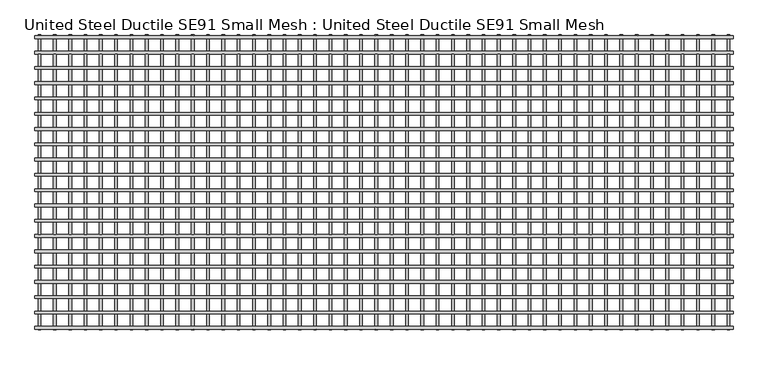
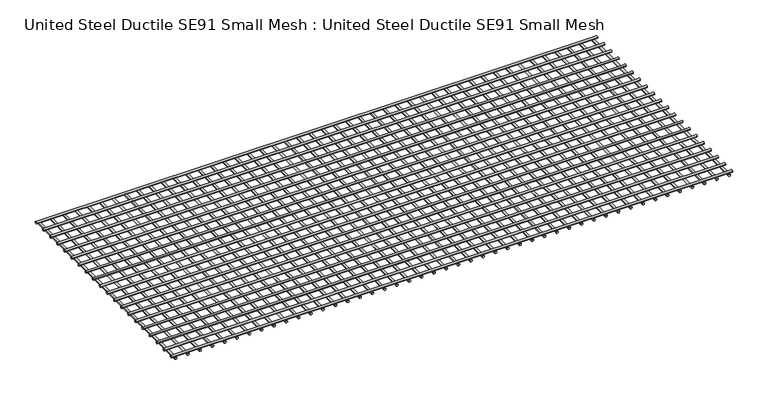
"""IFC4 building model written with IfcOpenShell, lengths in millimetres: proxy geometry, United Steel Ductile SE91 Small Mesh : United Steel Ductile SE91 Small Mesh."""

from ifc_helpers import new_model, si_unit, point, frame, frame_2d, origin, place, context, project, spatial, circle_curve, trimmed, segment, composite_curve, outline, extrude, source, transform, mapped, element, save


def united_steel_ductile_se91_small_mesh_united_steel_ductile_885aa156(model_context):
    return source(origin(), model_context, "Body", "SweptSolid", [
        extrude(outline(composite_curve([segment(trimmed(circle_curve(frame_2d((-115.8538329, 26.8809412)), 9.0), [point((-124.8538329, 26.8809412))], [point((-106.8538329, 26.8809412))], False, "CARTESIAN"), True, "CONTINUOUS"), segment(trimmed(circle_curve(frame_2d((-115.8538329, 26.8809412)), 9.0), [point((-106.8538329, 26.8809412))], [point((-124.8538329, 26.8809412))], False, "CARTESIAN"), True, "CONTINUOUS")], self_intersect=False)), frame((-4560.0, 0.0, 0.0), z_axis=(1.0, 0.0, 0.0), x_axis=(0.0, 1.0, 0.0)), (0.0, 0.0, 1.0), 4560.0),
        extrude(outline(composite_curve([segment(trimmed(circle_curve(frame_2d((-215.8385373, 26.8809412)), 9.0), [point((-224.8385373, 26.8809412))], [point((-206.8385373, 26.8809412))], False, "CARTESIAN"), True, "CONTINUOUS"), segment(trimmed(circle_curve(frame_2d((-215.8385373, 26.8809412)), 9.0), [point((-206.8385373, 26.8809412))], [point((-224.8385373, 26.8809412))], False, "CARTESIAN"), True, "CONTINUOUS")], self_intersect=False)), frame((-4560.0, 0.0, 0.0), z_axis=(1.0, 0.0, 0.0), x_axis=(0.0, 1.0, 0.0)), (0.0, 0.0, 1.0), 4560.0),
        extrude(outline(composite_curve([segment(trimmed(circle_curve(frame_2d((-315.8232418, 26.8809412)), 9.0), [point((-324.8232418, 26.8809412))], [point((-306.8232418, 26.8809412))], False, "CARTESIAN"), True, "CONTINUOUS"), segment(trimmed(circle_curve(frame_2d((-315.8232418, 26.8809412)), 9.0), [point((-306.8232418, 26.8809412))], [point((-324.8232418, 26.8809412))], False, "CARTESIAN"), True, "CONTINUOUS")], self_intersect=False)), frame((-4560.0, 0.0, 0.0), z_axis=(1.0, 0.0, 0.0), x_axis=(0.0, 1.0, 0.0)), (0.0, 0.0, 1.0), 4560.0),
        extrude(outline(composite_curve([segment(trimmed(circle_curve(frame_2d((-415.8079462, 26.8809412)), 9.0), [point((-424.8079462, 26.8809412))], [point((-406.8079462, 26.8809412))], False, "CARTESIAN"), True, "CONTINUOUS"), segment(trimmed(circle_curve(frame_2d((-415.8079462, 26.8809412)), 9.0), [point((-406.8079462, 26.8809412))], [point((-424.8079462, 26.8809412))], False, "CARTESIAN"), True, "CONTINUOUS")], self_intersect=False)), frame((-4560.0, 0.0, 0.0), z_axis=(1.0, 0.0, 0.0), x_axis=(0.0, 1.0, 0.0)), (0.0, 0.0, 1.0), 4560.0),
        extrude(outline(composite_curve([segment(trimmed(circle_curve(frame_2d((-515.7926506, 26.8809412)), 9.0), [point((-524.7926506, 26.8809412))], [point((-506.7926506, 26.8809412))], False, "CARTESIAN"), True, "CONTINUOUS"), segment(trimmed(circle_curve(frame_2d((-515.7926506, 26.8809412)), 9.0), [point((-506.7926506, 26.8809412))], [point((-524.7926506, 26.8809412))], False, "CARTESIAN"), True, "CONTINUOUS")], self_intersect=False)), frame((-4560.0, 0.0, 0.0), z_axis=(1.0, 0.0, 0.0), x_axis=(0.0, 1.0, 0.0)), (0.0, 0.0, 1.0), 4560.0),
        extrude(outline(composite_curve([segment(trimmed(circle_curve(frame_2d((-615.7773551, 26.8809412)), 9.0), [point((-624.7773551, 26.8809412))], [point((-606.7773551, 26.8809412))], False, "CARTESIAN"), True, "CONTINUOUS"), segment(trimmed(circle_curve(frame_2d((-615.7773551, 26.8809412)), 9.0), [point((-606.7773551, 26.8809412))], [point((-624.7773551, 26.8809412))], False, "CARTESIAN"), True, "CONTINUOUS")], self_intersect=False)), frame((-4560.0, 0.0, 0.0), z_axis=(1.0, 0.0, 0.0), x_axis=(0.0, 1.0, 0.0)), (0.0, 0.0, 1.0), 4560.0),
        extrude(outline(composite_curve([segment(trimmed(circle_curve(frame_2d((-715.7620595, 26.8809412)), 9.0), [point((-724.7620595, 26.8809412))], [point((-706.7620595, 26.8809412))], False, "CARTESIAN"), True, "CONTINUOUS"), segment(trimmed(circle_curve(frame_2d((-715.7620595, 26.8809412)), 9.0), [point((-706.7620595, 26.8809412))], [point((-724.7620595, 26.8809412))], False, "CARTESIAN"), True, "CONTINUOUS")], self_intersect=False)), frame((-4560.0, 0.0, 0.0), z_axis=(1.0, 0.0, 0.0), x_axis=(0.0, 1.0, 0.0)), (0.0, 0.0, 1.0), 4560.0),
        extrude(outline(composite_curve([segment(trimmed(circle_curve(frame_2d((-815.7467639, 26.8809412)), 9.0), [point((-824.7467639, 26.8809412))], [point((-806.7467639, 26.8809412))], False, "CARTESIAN"), True, "CONTINUOUS"), segment(trimmed(circle_curve(frame_2d((-815.7467639, 26.8809412)), 9.0), [point((-806.7467639, 26.8809412))], [point((-824.7467639, 26.8809412))], False, "CARTESIAN"), True, "CONTINUOUS")], self_intersect=False)), frame((-4560.0, 0.0, 0.0), z_axis=(1.0, 0.0, 0.0), x_axis=(0.0, 1.0, 0.0)), (0.0, 0.0, 1.0), 4560.0),
        extrude(outline(composite_curve([segment(trimmed(circle_curve(frame_2d((-915.7314683, 26.8809412)), 9.0), [point((-924.7314683, 26.8809412))], [point((-906.7314683, 26.8809412))], False, "CARTESIAN"), True, "CONTINUOUS"), segment(trimmed(circle_curve(frame_2d((-915.7314683, 26.8809412)), 9.0), [point((-906.7314683, 26.8809412))], [point((-924.7314683, 26.8809412))], False, "CARTESIAN"), True, "CONTINUOUS")], self_intersect=False)), frame((-4560.0, 0.0, 0.0), z_axis=(1.0, 0.0, 0.0), x_axis=(0.0, 1.0, 0.0)), (0.0, 0.0, 1.0), 4560.0),
        extrude(outline(composite_curve([segment(trimmed(circle_curve(frame_2d((8.9562459, -4429.8060249)), 9.0), [point((8.9562459, -4438.8060249))], [point((8.9562459, -4420.8060249))], False, "CARTESIAN"), True, "CONTINUOUS"), segment(trimmed(circle_curve(frame_2d((8.9562459, -4429.8060249)), 9.0), [point((8.9562459, -4420.8060249))], [point((8.9562459, -4438.8060249))], False, "CARTESIAN"), True, "CONTINUOUS")], self_intersect=False)), frame((0.0, -1930.0, 0.0), z_axis=(0.0, 1.0, 0.0), x_axis=(0.0, 0.0, 1.0)), (0.0, 0.0, 1.0), 1930.0),
        extrude(outline(composite_curve([segment(trimmed(circle_curve(frame_2d((8.9562459, -4329.8098229)), 9.0), [point((8.9562459, -4338.8098229))], [point((8.9562459, -4320.8098229))], False, "CARTESIAN"), True, "CONTINUOUS"), segment(trimmed(circle_curve(frame_2d((8.9562459, -4329.8098229)), 9.0), [point((8.9562459, -4320.8098229))], [point((8.9562459, -4338.8098229))], False, "CARTESIAN"), True, "CONTINUOUS")], self_intersect=False)), frame((0.0, -1930.0, 0.0), z_axis=(0.0, 1.0, 0.0), x_axis=(0.0, 0.0, 1.0)), (0.0, 0.0, 1.0), 1930.0),
        extrude(outline(composite_curve([segment(trimmed(circle_curve(frame_2d((8.9562459, -4229.8136209)), 9.0), [point((8.9562459, -4238.8136209))], [point((8.9562459, -4220.8136209))], False, "CARTESIAN"), True, "CONTINUOUS"), segment(trimmed(circle_curve(frame_2d((8.9562459, -4229.8136209)), 9.0), [point((8.9562459, -4220.8136209))], [point((8.9562459, -4238.8136209))], False, "CARTESIAN"), True, "CONTINUOUS")], self_intersect=False)), frame((0.0, -1930.0, 0.0), z_axis=(0.0, 1.0, 0.0), x_axis=(0.0, 0.0, 1.0)), (0.0, 0.0, 1.0), 1930.0),
        extrude(outline(composite_curve([segment(trimmed(circle_curve(frame_2d((8.9562459, -4129.8174189)), 9.0), [point((8.9562459, -4138.8174189))], [point((8.9562459, -4120.8174189))], False, "CARTESIAN"), True, "CONTINUOUS"), segment(trimmed(circle_curve(frame_2d((8.9562459, -4129.8174189)), 9.0), [point((8.9562459, -4120.8174189))], [point((8.9562459, -4138.8174189))], False, "CARTESIAN"), True, "CONTINUOUS")], self_intersect=False)), frame((0.0, -1930.0, 0.0), z_axis=(0.0, 1.0, 0.0), x_axis=(0.0, 0.0, 1.0)), (0.0, 0.0, 1.0), 1930.0),
        extrude(outline(composite_curve([segment(trimmed(circle_curve(frame_2d((8.9562459, -4029.8212169)), 9.0), [point((8.9562459, -4038.8212169))], [point((8.9562459, -4020.8212169))], False, "CARTESIAN"), True, "CONTINUOUS"), segment(trimmed(circle_curve(frame_2d((8.9562459, -4029.8212169)), 9.0), [point((8.9562459, -4020.8212169))], [point((8.9562459, -4038.8212169))], False, "CARTESIAN"), True, "CONTINUOUS")], self_intersect=False)), frame((0.0, -1930.0, 0.0), z_axis=(0.0, 1.0, 0.0), x_axis=(0.0, 0.0, 1.0)), (0.0, 0.0, 1.0), 1930.0),
        extrude(outline(composite_curve([segment(trimmed(circle_curve(frame_2d((8.9562459, -3929.8250149)), 9.0), [point((8.9562459, -3938.8250149))], [point((8.9562459, -3920.8250149))], False, "CARTESIAN"), True, "CONTINUOUS"), segment(trimmed(circle_curve(frame_2d((8.9562459, -3929.8250149)), 9.0), [point((8.9562459, -3920.8250149))], [point((8.9562459, -3938.8250149))], False, "CARTESIAN"), True, "CONTINUOUS")], self_intersect=False)), frame((0.0, -1930.0, 0.0), z_axis=(0.0, 1.0, 0.0), x_axis=(0.0, 0.0, 1.0)), (0.0, 0.0, 1.0), 1930.0),
        extrude(outline(composite_curve([segment(trimmed(circle_curve(frame_2d((8.9562459, -3829.8288129)), 9.0), [point((8.9562459, -3838.8288129))], [point((8.9562459, -3820.8288129))], False, "CARTESIAN"), True, "CONTINUOUS"), segment(trimmed(circle_curve(frame_2d((8.9562459, -3829.8288129)), 9.0), [point((8.9562459, -3820.8288129))], [point((8.9562459, -3838.8288129))], False, "CARTESIAN"), True, "CONTINUOUS")], self_intersect=False)), frame((0.0, -1930.0, 0.0), z_axis=(0.0, 1.0, 0.0), x_axis=(0.0, 0.0, 1.0)), (0.0, 0.0, 1.0), 1930.0),
        extrude(outline(composite_curve([segment(trimmed(circle_curve(frame_2d((8.9562459, -3729.8326109)), 9.0), [point((8.9562459, -3738.8326109))], [point((8.9562459, -3720.8326109))], False, "CARTESIAN"), True, "CONTINUOUS"), segment(trimmed(circle_curve(frame_2d((8.9562459, -3729.8326109)), 9.0), [point((8.9562459, -3720.8326109))], [point((8.9562459, -3738.8326109))], False, "CARTESIAN"), True, "CONTINUOUS")], self_intersect=False)), frame((0.0, -1930.0, 0.0), z_axis=(0.0, 1.0, 0.0), x_axis=(0.0, 0.0, 1.0)), (0.0, 0.0, 1.0), 1930.0),
        extrude(outline(composite_curve([segment(trimmed(circle_curve(frame_2d((8.9562459, -3629.8364089)), 9.0), [point((8.9562459, -3638.8364089))], [point((8.9562459, -3620.8364089))], False, "CARTESIAN"), True, "CONTINUOUS"), segment(trimmed(circle_curve(frame_2d((8.9562459, -3629.8364089)), 9.0), [point((8.9562459, -3620.8364089))], [point((8.9562459, -3638.8364089))], False, "CARTESIAN"), True, "CONTINUOUS")], self_intersect=False)), frame((0.0, -1930.0, 0.0), z_axis=(0.0, 1.0, 0.0), x_axis=(0.0, 0.0, 1.0)), (0.0, 0.0, 1.0), 1930.0),
        extrude(outline(composite_curve([segment(trimmed(circle_curve(frame_2d((8.9562459, -3529.8402069)), 9.0), [point((8.9562459, -3538.8402069))], [point((8.9562459, -3520.8402069))], False, "CARTESIAN"), True, "CONTINUOUS"), segment(trimmed(circle_curve(frame_2d((8.9562459, -3529.8402069)), 9.0), [point((8.9562459, -3520.8402069))], [point((8.9562459, -3538.8402069))], False, "CARTESIAN"), True, "CONTINUOUS")], self_intersect=False)), frame((0.0, -1930.0, 0.0), z_axis=(0.0, 1.0, 0.0), x_axis=(0.0, 0.0, 1.0)), (0.0, 0.0, 1.0), 1930.0),
        extrude(outline(composite_curve([segment(trimmed(circle_curve(frame_2d((8.9562459, -3429.8440049)), 9.0), [point((8.9562459, -3438.8440049))], [point((8.9562459, -3420.8440049))], False, "CARTESIAN"), True, "CONTINUOUS"), segment(trimmed(circle_curve(frame_2d((8.9562459, -3429.8440049)), 9.0), [point((8.9562459, -3420.8440049))], [point((8.9562459, -3438.8440049))], False, "CARTESIAN"), True, "CONTINUOUS")], self_intersect=False)), frame((0.0, -1930.0, 0.0), z_axis=(0.0, 1.0, 0.0), x_axis=(0.0, 0.0, 1.0)), (0.0, 0.0, 1.0), 1930.0),
        extrude(outline(composite_curve([segment(trimmed(circle_curve(frame_2d((8.9562459, -3329.8478029)), 9.0), [point((8.9562459, -3338.8478029))], [point((8.9562459, -3320.8478029))], False, "CARTESIAN"), True, "CONTINUOUS"), segment(trimmed(circle_curve(frame_2d((8.9562459, -3329.8478029)), 9.0), [point((8.9562459, -3320.8478029))], [point((8.9562459, -3338.8478029))], False, "CARTESIAN"), True, "CONTINUOUS")], self_intersect=False)), frame((0.0, -1930.0, 0.0), z_axis=(0.0, 1.0, 0.0), x_axis=(0.0, 0.0, 1.0)), (0.0, 0.0, 1.0), 1930.0),
        extrude(outline(composite_curve([segment(trimmed(circle_curve(frame_2d((8.9562459, -3229.8516009)), 9.0), [point((8.9562459, -3238.8516009))], [point((8.9562459, -3220.8516009))], False, "CARTESIAN"), True, "CONTINUOUS"), segment(trimmed(circle_curve(frame_2d((8.9562459, -3229.8516009)), 9.0), [point((8.9562459, -3220.8516009))], [point((8.9562459, -3238.8516009))], False, "CARTESIAN"), True, "CONTINUOUS")], self_intersect=False)), frame((0.0, -1930.0, 0.0), z_axis=(0.0, 1.0, 0.0), x_axis=(0.0, 0.0, 1.0)), (0.0, 0.0, 1.0), 1930.0),
        extrude(outline(composite_curve([segment(trimmed(circle_curve(frame_2d((8.9562459, -3129.8553989)), 9.0), [point((8.9562459, -3138.8553989))], [point((8.9562459, -3120.8553989))], False, "CARTESIAN"), True, "CONTINUOUS"), segment(trimmed(circle_curve(frame_2d((8.9562459, -3129.8553989)), 9.0), [point((8.9562459, -3120.8553989))], [point((8.9562459, -3138.8553989))], False, "CARTESIAN"), True, "CONTINUOUS")], self_intersect=False)), frame((0.0, -1930.0, 0.0), z_axis=(0.0, 1.0, 0.0), x_axis=(0.0, 0.0, 1.0)), (0.0, 0.0, 1.0), 1930.0),
        extrude(outline(composite_curve([segment(trimmed(circle_curve(frame_2d((8.9562459, -3029.8591969)), 9.0), [point((8.9562459, -3038.8591969))], [point((8.9562459, -3020.8591969))], False, "CARTESIAN"), True, "CONTINUOUS"), segment(trimmed(circle_curve(frame_2d((8.9562459, -3029.8591969)), 9.0), [point((8.9562459, -3020.8591969))], [point((8.9562459, -3038.8591969))], False, "CARTESIAN"), True, "CONTINUOUS")], self_intersect=False)), frame((0.0, -1930.0, 0.0), z_axis=(0.0, 1.0, 0.0), x_axis=(0.0, 0.0, 1.0)), (0.0, 0.0, 1.0), 1930.0),
        extrude(outline(composite_curve([segment(trimmed(circle_curve(frame_2d((8.9562459, -2929.8629949)), 9.0), [point((8.9562459, -2938.8629949))], [point((8.9562459, -2920.8629949))], False, "CARTESIAN"), True, "CONTINUOUS"), segment(trimmed(circle_curve(frame_2d((8.9562459, -2929.8629949)), 9.0), [point((8.9562459, -2920.8629949))], [point((8.9562459, -2938.8629949))], False, "CARTESIAN"), True, "CONTINUOUS")], self_intersect=False)), frame((0.0, -1930.0, 0.0), z_axis=(0.0, 1.0, 0.0), x_axis=(0.0, 0.0, 1.0)), (0.0, 0.0, 1.0), 1930.0),
        extrude(outline(composite_curve([segment(trimmed(circle_curve(frame_2d((8.9562459, -2829.8667929)), 9.0), [point((8.9562459, -2838.8667929))], [point((8.9562459, -2820.8667929))], False, "CARTESIAN"), True, "CONTINUOUS"), segment(trimmed(circle_curve(frame_2d((8.9562459, -2829.8667929)), 9.0), [point((8.9562459, -2820.8667929))], [point((8.9562459, -2838.8667929))], False, "CARTESIAN"), True, "CONTINUOUS")], self_intersect=False)), frame((0.0, -1930.0, 0.0), z_axis=(0.0, 1.0, 0.0), x_axis=(0.0, 0.0, 1.0)), (0.0, 0.0, 1.0), 1930.0),
        extrude(outline(composite_curve([segment(trimmed(circle_curve(frame_2d((8.9562459, -2729.8705909)), 9.0), [point((8.9562459, -2738.8705909))], [point((8.9562459, -2720.8705909))], False, "CARTESIAN"), True, "CONTINUOUS"), segment(trimmed(circle_curve(frame_2d((8.9562459, -2729.8705909)), 9.0), [point((8.9562459, -2720.8705909))], [point((8.9562459, -2738.8705909))], False, "CARTESIAN"), True, "CONTINUOUS")], self_intersect=False)), frame((0.0, -1930.0, 0.0), z_axis=(0.0, 1.0, 0.0), x_axis=(0.0, 0.0, 1.0)), (0.0, 0.0, 1.0), 1930.0),
        extrude(outline(composite_curve([segment(trimmed(circle_curve(frame_2d((8.9562459, -2629.8743889)), 9.0), [point((8.9562459, -2638.8743889))], [point((8.9562459, -2620.8743889))], False, "CARTESIAN"), True, "CONTINUOUS"), segment(trimmed(circle_curve(frame_2d((8.9562459, -2629.8743889)), 9.0), [point((8.9562459, -2620.8743889))], [point((8.9562459, -2638.8743889))], False, "CARTESIAN"), True, "CONTINUOUS")], self_intersect=False)), frame((0.0, -1930.0, 0.0), z_axis=(0.0, 1.0, 0.0), x_axis=(0.0, 0.0, 1.0)), (0.0, 0.0, 1.0), 1930.0),
        extrude(outline(composite_curve([segment(trimmed(circle_curve(frame_2d((8.9562459, -2529.8781869)), 9.0), [point((8.9562459, -2538.8781869))], [point((8.9562459, -2520.8781869))], False, "CARTESIAN"), True, "CONTINUOUS"), segment(trimmed(circle_curve(frame_2d((8.9562459, -2529.8781869)), 9.0), [point((8.9562459, -2520.8781869))], [point((8.9562459, -2538.8781869))], False, "CARTESIAN"), True, "CONTINUOUS")], self_intersect=False)), frame((0.0, -1930.0, 0.0), z_axis=(0.0, 1.0, 0.0), x_axis=(0.0, 0.0, 1.0)), (0.0, 0.0, 1.0), 1930.0),
        extrude(outline(composite_curve([segment(trimmed(circle_curve(frame_2d((8.9562459, -2429.8819849)), 9.0), [point((8.9562459, -2438.8819849))], [point((8.9562459, -2420.8819849))], False, "CARTESIAN"), True, "CONTINUOUS"), segment(trimmed(circle_curve(frame_2d((8.9562459, -2429.8819849)), 9.0), [point((8.9562459, -2420.8819849))], [point((8.9562459, -2438.8819849))], False, "CARTESIAN"), True, "CONTINUOUS")], self_intersect=False)), frame((0.0, -1930.0, 0.0), z_axis=(0.0, 1.0, 0.0), x_axis=(0.0, 0.0, 1.0)), (0.0, 0.0, 1.0), 1930.0),
        extrude(outline(composite_curve([segment(trimmed(circle_curve(frame_2d((8.9562459, -2329.8857829)), 9.0), [point((8.9562459, -2338.8857829))], [point((8.9562459, -2320.8857829))], False, "CARTESIAN"), True, "CONTINUOUS"), segment(trimmed(circle_curve(frame_2d((8.9562459, -2329.8857829)), 9.0), [point((8.9562459, -2320.8857829))], [point((8.9562459, -2338.8857829))], False, "CARTESIAN"), True, "CONTINUOUS")], self_intersect=False)), frame((0.0, -1930.0, 0.0), z_axis=(0.0, 1.0, 0.0), x_axis=(0.0, 0.0, 1.0)), (0.0, 0.0, 1.0), 1930.0),
        extrude(outline(composite_curve([segment(trimmed(circle_curve(frame_2d((8.9562459, -2229.8895809)), 9.0), [point((8.9562459, -2238.8895809))], [point((8.9562459, -2220.8895809))], False, "CARTESIAN"), True, "CONTINUOUS"), segment(trimmed(circle_curve(frame_2d((8.9562459, -2229.8895809)), 9.0), [point((8.9562459, -2220.8895809))], [point((8.9562459, -2238.8895809))], False, "CARTESIAN"), True, "CONTINUOUS")], self_intersect=False)), frame((0.0, -1930.0, 0.0), z_axis=(0.0, 1.0, 0.0), x_axis=(0.0, 0.0, 1.0)), (0.0, 0.0, 1.0), 1930.0),
        extrude(outline(composite_curve([segment(trimmed(circle_curve(frame_2d((-1015.7161728, 26.8809412)), 9.0), [point((-1024.7161728, 26.8809412))], [point((-1006.7161728, 26.8809412))], False, "CARTESIAN"), True, "CONTINUOUS"), segment(trimmed(circle_curve(frame_2d((-1015.7161728, 26.8809412)), 9.0), [point((-1006.7161728, 26.8809412))], [point((-1024.7161728, 26.8809412))], False, "CARTESIAN"), True, "CONTINUOUS")], self_intersect=False)), frame((-4560.0, 0.0, 0.0), z_axis=(1.0, 0.0, 0.0), x_axis=(0.0, 1.0, 0.0)), (0.0, 0.0, 1.0), 4560.0),
        extrude(outline(composite_curve([segment(trimmed(circle_curve(frame_2d((-1115.7008772, 26.8809412)), 9.0), [point((-1124.7008772, 26.8809412))], [point((-1106.7008772, 26.8809412))], False, "CARTESIAN"), True, "CONTINUOUS"), segment(trimmed(circle_curve(frame_2d((-1115.7008772, 26.8809412)), 9.0), [point((-1106.7008772, 26.8809412))], [point((-1124.7008772, 26.8809412))], False, "CARTESIAN"), True, "CONTINUOUS")], self_intersect=False)), frame((-4560.0, 0.0, 0.0), z_axis=(1.0, 0.0, 0.0), x_axis=(0.0, 1.0, 0.0)), (0.0, 0.0, 1.0), 4560.0),
        extrude(outline(composite_curve([segment(trimmed(circle_curve(frame_2d((-1215.6855816, 26.8809412)), 9.0), [point((-1224.6855816, 26.8809412))], [point((-1206.6855816, 26.8809412))], False, "CARTESIAN"), True, "CONTINUOUS"), segment(trimmed(circle_curve(frame_2d((-1215.6855816, 26.8809412)), 9.0), [point((-1206.6855816, 26.8809412))], [point((-1224.6855816, 26.8809412))], False, "CARTESIAN"), True, "CONTINUOUS")], self_intersect=False)), frame((-4560.0, 0.0, 0.0), z_axis=(1.0, 0.0, 0.0), x_axis=(0.0, 1.0, 0.0)), (0.0, 0.0, 1.0), 4560.0),
        extrude(outline(composite_curve([segment(trimmed(circle_curve(frame_2d((-1315.6702861, 26.8809412)), 9.0), [point((-1324.6702861, 26.8809412))], [point((-1306.6702861, 26.8809412))], False, "CARTESIAN"), True, "CONTINUOUS"), segment(trimmed(circle_curve(frame_2d((-1315.6702861, 26.8809412)), 9.0), [point((-1306.6702861, 26.8809412))], [point((-1324.6702861, 26.8809412))], False, "CARTESIAN"), True, "CONTINUOUS")], self_intersect=False)), frame((-4560.0, 0.0, 0.0), z_axis=(1.0, 0.0, 0.0), x_axis=(0.0, 1.0, 0.0)), (0.0, 0.0, 1.0), 4560.0),
        extrude(outline(composite_curve([segment(trimmed(circle_curve(frame_2d((-1415.6549905, 26.8809412)), 9.0), [point((-1424.6549905, 26.8809412))], [point((-1406.6549905, 26.8809412))], False, "CARTESIAN"), True, "CONTINUOUS"), segment(trimmed(circle_curve(frame_2d((-1415.6549905, 26.8809412)), 9.0), [point((-1406.6549905, 26.8809412))], [point((-1424.6549905, 26.8809412))], False, "CARTESIAN"), True, "CONTINUOUS")], self_intersect=False)), frame((-4560.0, 0.0, 0.0), z_axis=(1.0, 0.0, 0.0), x_axis=(0.0, 1.0, 0.0)), (0.0, 0.0, 1.0), 4560.0),
        extrude(outline(composite_curve([segment(trimmed(circle_curve(frame_2d((-1515.6396949, 26.8809412)), 9.0), [point((-1524.6396949, 26.8809412))], [point((-1506.6396949, 26.8809412))], False, "CARTESIAN"), True, "CONTINUOUS"), segment(trimmed(circle_curve(frame_2d((-1515.6396949, 26.8809412)), 9.0), [point((-1506.6396949, 26.8809412))], [point((-1524.6396949, 26.8809412))], False, "CARTESIAN"), True, "CONTINUOUS")], self_intersect=False)), frame((-4560.0, 0.0, 0.0), z_axis=(1.0, 0.0, 0.0), x_axis=(0.0, 1.0, 0.0)), (0.0, 0.0, 1.0), 4560.0),
        extrude(outline(composite_curve([segment(trimmed(circle_curve(frame_2d((-1615.6243993, 26.8809412)), 9.0), [point((-1624.6243993, 26.8809412))], [point((-1606.6243993, 26.8809412))], False, "CARTESIAN"), True, "CONTINUOUS"), segment(trimmed(circle_curve(frame_2d((-1615.6243993, 26.8809412)), 9.0), [point((-1606.6243993, 26.8809412))], [point((-1624.6243993, 26.8809412))], False, "CARTESIAN"), True, "CONTINUOUS")], self_intersect=False)), frame((-4560.0, 0.0, 0.0), z_axis=(1.0, 0.0, 0.0), x_axis=(0.0, 1.0, 0.0)), (0.0, 0.0, 1.0), 4560.0),
        extrude(outline(composite_curve([segment(trimmed(circle_curve(frame_2d((-1715.6091038, 26.8809412)), 9.0), [point((-1724.6091038, 26.8809412))], [point((-1706.6091038, 26.8809412))], False, "CARTESIAN"), True, "CONTINUOUS"), segment(trimmed(circle_curve(frame_2d((-1715.6091038, 26.8809412)), 9.0), [point((-1706.6091038, 26.8809412))], [point((-1724.6091038, 26.8809412))], False, "CARTESIAN"), True, "CONTINUOUS")], self_intersect=False)), frame((-4560.0, 0.0, 0.0), z_axis=(1.0, 0.0, 0.0), x_axis=(0.0, 1.0, 0.0)), (0.0, 0.0, 1.0), 4560.0),
        extrude(outline(composite_curve([segment(trimmed(circle_curve(frame_2d((-1815.5938082, 26.8809412)), 9.0), [point((-1824.5938082, 26.8809412))], [point((-1806.5938082, 26.8809412))], False, "CARTESIAN"), True, "CONTINUOUS"), segment(trimmed(circle_curve(frame_2d((-1815.5938082, 26.8809412)), 9.0), [point((-1806.5938082, 26.8809412))], [point((-1824.5938082, 26.8809412))], False, "CARTESIAN"), True, "CONTINUOUS")], self_intersect=False)), frame((-4560.0, 0.0, 0.0), z_axis=(1.0, 0.0, 0.0), x_axis=(0.0, 1.0, 0.0)), (0.0, 0.0, 1.0), 4560.0),
        extrude(outline(composite_curve([segment(trimmed(circle_curve(frame_2d((-15.8691285, 26.8809412)), 9.0), [point((-24.8691285, 26.8809412))], [point((-6.8691285, 26.8809412))], False, "CARTESIAN"), True, "CONTINUOUS"), segment(trimmed(circle_curve(frame_2d((-15.8691285, 26.8809412)), 9.0), [point((-6.8691285, 26.8809412))], [point((-24.8691285, 26.8809412))], False, "CARTESIAN"), True, "CONTINUOUS")], self_intersect=False)), frame((-4560.0, 0.0, 0.0), z_axis=(1.0, 0.0, 0.0), x_axis=(0.0, 1.0, 0.0)), (0.0, 0.0, 1.0), 4560.0),
        extrude(outline(composite_curve([segment(trimmed(circle_curve(frame_2d((-1915.5785126, 26.8809412)), 9.0), [point((-1924.5785126, 26.8809412))], [point((-1906.5785126, 26.8809412))], False, "CARTESIAN"), True, "CONTINUOUS"), segment(trimmed(circle_curve(frame_2d((-1915.5785126, 26.8809412)), 9.0), [point((-1906.5785126, 26.8809412))], [point((-1924.5785126, 26.8809412))], False, "CARTESIAN"), True, "CONTINUOUS")], self_intersect=False)), frame((-4560.0, 0.0, 0.0), z_axis=(1.0, 0.0, 0.0), x_axis=(0.0, 1.0, 0.0)), (0.0, 0.0, 1.0), 4560.0),
        extrude(outline(composite_curve([segment(trimmed(circle_curve(frame_2d((8.9562459, -2129.8933789)), 9.0), [point((8.9562459, -2138.8933789))], [point((8.9562459, -2120.8933789))], False, "CARTESIAN"), True, "CONTINUOUS"), segment(trimmed(circle_curve(frame_2d((8.9562459, -2129.8933789)), 9.0), [point((8.9562459, -2120.8933789))], [point((8.9562459, -2138.8933789))], False, "CARTESIAN"), True, "CONTINUOUS")], self_intersect=False)), frame((0.0, -1930.0, 0.0), z_axis=(0.0, 1.0, 0.0), x_axis=(0.0, 0.0, 1.0)), (0.0, 0.0, 1.0), 1930.0),
        extrude(outline(composite_curve([segment(trimmed(circle_curve(frame_2d((8.9562459, -2029.8971769)), 9.0), [point((8.9562459, -2038.8971769))], [point((8.9562459, -2020.8971769))], False, "CARTESIAN"), True, "CONTINUOUS"), segment(trimmed(circle_curve(frame_2d((8.9562459, -2029.8971769)), 9.0), [point((8.9562459, -2020.8971769))], [point((8.9562459, -2038.8971769))], False, "CARTESIAN"), True, "CONTINUOUS")], self_intersect=False)), frame((0.0, -1930.0, 0.0), z_axis=(0.0, 1.0, 0.0), x_axis=(0.0, 0.0, 1.0)), (0.0, 0.0, 1.0), 1930.0),
        extrude(outline(composite_curve([segment(trimmed(circle_curve(frame_2d((8.9562459, -1929.900975)), 9.0), [point((8.9562459, -1938.900975))], [point((8.9562459, -1920.900975))], False, "CARTESIAN"), True, "CONTINUOUS"), segment(trimmed(circle_curve(frame_2d((8.9562459, -1929.900975)), 9.0), [point((8.9562459, -1920.900975))], [point((8.9562459, -1938.900975))], False, "CARTESIAN"), True, "CONTINUOUS")], self_intersect=False)), frame((0.0, -1930.0, 0.0), z_axis=(0.0, 1.0, 0.0), x_axis=(0.0, 0.0, 1.0)), (0.0, 0.0, 1.0), 1930.0),
        extrude(outline(composite_curve([segment(trimmed(circle_curve(frame_2d((8.9562459, -1829.904773)), 9.0), [point((8.9562459, -1838.904773))], [point((8.9562459, -1820.904773))], False, "CARTESIAN"), True, "CONTINUOUS"), segment(trimmed(circle_curve(frame_2d((8.9562459, -1829.904773)), 9.0), [point((8.9562459, -1820.904773))], [point((8.9562459, -1838.904773))], False, "CARTESIAN"), True, "CONTINUOUS")], self_intersect=False)), frame((0.0, -1930.0, 0.0), z_axis=(0.0, 1.0, 0.0), x_axis=(0.0, 0.0, 1.0)), (0.0, 0.0, 1.0), 1930.0),
        extrude(outline(composite_curve([segment(trimmed(circle_curve(frame_2d((8.9562459, -1729.908571)), 9.0), [point((8.9562459, -1738.908571))], [point((8.9562459, -1720.908571))], False, "CARTESIAN"), True, "CONTINUOUS"), segment(trimmed(circle_curve(frame_2d((8.9562459, -1729.908571)), 9.0), [point((8.9562459, -1720.908571))], [point((8.9562459, -1738.908571))], False, "CARTESIAN"), True, "CONTINUOUS")], self_intersect=False)), frame((0.0, -1930.0, 0.0), z_axis=(0.0, 1.0, 0.0), x_axis=(0.0, 0.0, 1.0)), (0.0, 0.0, 1.0), 1930.0),
        extrude(outline(composite_curve([segment(trimmed(circle_curve(frame_2d((8.9562459, -1629.912369)), 9.0), [point((8.9562459, -1638.912369))], [point((8.9562459, -1620.912369))], False, "CARTESIAN"), True, "CONTINUOUS"), segment(trimmed(circle_curve(frame_2d((8.9562459, -1629.912369)), 9.0), [point((8.9562459, -1620.912369))], [point((8.9562459, -1638.912369))], False, "CARTESIAN"), True, "CONTINUOUS")], self_intersect=False)), frame((0.0, -1930.0, 0.0), z_axis=(0.0, 1.0, 0.0), x_axis=(0.0, 0.0, 1.0)), (0.0, 0.0, 1.0), 1930.0),
        extrude(outline(composite_curve([segment(trimmed(circle_curve(frame_2d((8.9562459, -1529.916167)), 9.0), [point((8.9562459, -1538.916167))], [point((8.9562459, -1520.916167))], False, "CARTESIAN"), True, "CONTINUOUS"), segment(trimmed(circle_curve(frame_2d((8.9562459, -1529.916167)), 9.0), [point((8.9562459, -1520.916167))], [point((8.9562459, -1538.916167))], False, "CARTESIAN"), True, "CONTINUOUS")], self_intersect=False)), frame((0.0, -1930.0, 0.0), z_axis=(0.0, 1.0, 0.0), x_axis=(0.0, 0.0, 1.0)), (0.0, 0.0, 1.0), 1930.0),
        extrude(outline(composite_curve([segment(trimmed(circle_curve(frame_2d((8.9562459, -1429.919965)), 9.0), [point((8.9562459, -1438.919965))], [point((8.9562459, -1420.919965))], False, "CARTESIAN"), True, "CONTINUOUS"), segment(trimmed(circle_curve(frame_2d((8.9562459, -1429.919965)), 9.0), [point((8.9562459, -1420.919965))], [point((8.9562459, -1438.919965))], False, "CARTESIAN"), True, "CONTINUOUS")], self_intersect=False)), frame((0.0, -1930.0, 0.0), z_axis=(0.0, 1.0, 0.0), x_axis=(0.0, 0.0, 1.0)), (0.0, 0.0, 1.0), 1930.0),
        extrude(outline(composite_curve([segment(trimmed(circle_curve(frame_2d((8.9562459, -1329.923763)), 9.0), [point((8.9562459, -1338.923763))], [point((8.9562459, -1320.923763))], False, "CARTESIAN"), True, "CONTINUOUS"), segment(trimmed(circle_curve(frame_2d((8.9562459, -1329.923763)), 9.0), [point((8.9562459, -1320.923763))], [point((8.9562459, -1338.923763))], False, "CARTESIAN"), True, "CONTINUOUS")], self_intersect=False)), frame((0.0, -1930.0, 0.0), z_axis=(0.0, 1.0, 0.0), x_axis=(0.0, 0.0, 1.0)), (0.0, 0.0, 1.0), 1930.0),
        extrude(outline(composite_curve([segment(trimmed(circle_curve(frame_2d((8.9562459, -1229.927561)), 9.0), [point((8.9562459, -1238.927561))], [point((8.9562459, -1220.927561))], False, "CARTESIAN"), True, "CONTINUOUS"), segment(trimmed(circle_curve(frame_2d((8.9562459, -1229.927561)), 9.0), [point((8.9562459, -1220.927561))], [point((8.9562459, -1238.927561))], False, "CARTESIAN"), True, "CONTINUOUS")], self_intersect=False)), frame((0.0, -1930.0, 0.0), z_axis=(0.0, 1.0, 0.0), x_axis=(0.0, 0.0, 1.0)), (0.0, 0.0, 1.0), 1930.0),
        extrude(outline(composite_curve([segment(trimmed(circle_curve(frame_2d((8.9562459, -1129.931359)), 9.0), [point((8.9562459, -1138.931359))], [point((8.9562459, -1120.931359))], False, "CARTESIAN"), True, "CONTINUOUS"), segment(trimmed(circle_curve(frame_2d((8.9562459, -1129.931359)), 9.0), [point((8.9562459, -1120.931359))], [point((8.9562459, -1138.931359))], False, "CARTESIAN"), True, "CONTINUOUS")], self_intersect=False)), frame((0.0, -1930.0, 0.0), z_axis=(0.0, 1.0, 0.0), x_axis=(0.0, 0.0, 1.0)), (0.0, 0.0, 1.0), 1930.0),
        extrude(outline(composite_curve([segment(trimmed(circle_curve(frame_2d((8.9562459, -1029.935157)), 9.0), [point((8.9562459, -1038.935157))], [point((8.9562459, -1020.935157))], False, "CARTESIAN"), True, "CONTINUOUS"), segment(trimmed(circle_curve(frame_2d((8.9562459, -1029.935157)), 9.0), [point((8.9562459, -1020.935157))], [point((8.9562459, -1038.935157))], False, "CARTESIAN"), True, "CONTINUOUS")], self_intersect=False)), frame((0.0, -1930.0, 0.0), z_axis=(0.0, 1.0, 0.0), x_axis=(0.0, 0.0, 1.0)), (0.0, 0.0, 1.0), 1930.0),
        extrude(outline(composite_curve([segment(trimmed(circle_curve(frame_2d((8.9562459, -929.938955)), 9.0), [point((8.9562459, -938.938955))], [point((8.9562459, -920.938955))], False, "CARTESIAN"), True, "CONTINUOUS"), segment(trimmed(circle_curve(frame_2d((8.9562459, -929.938955)), 9.0), [point((8.9562459, -920.938955))], [point((8.9562459, -938.938955))], False, "CARTESIAN"), True, "CONTINUOUS")], self_intersect=False)), frame((0.0, -1930.0, 0.0), z_axis=(0.0, 1.0, 0.0), x_axis=(0.0, 0.0, 1.0)), (0.0, 0.0, 1.0), 1930.0),
        extrude(outline(composite_curve([segment(trimmed(circle_curve(frame_2d((8.9562459, -829.942753)), 9.0), [point((8.9562459, -838.942753))], [point((8.9562459, -820.942753))], False, "CARTESIAN"), True, "CONTINUOUS"), segment(trimmed(circle_curve(frame_2d((8.9562459, -829.942753)), 9.0), [point((8.9562459, -820.942753))], [point((8.9562459, -838.942753))], False, "CARTESIAN"), True, "CONTINUOUS")], self_intersect=False)), frame((0.0, -1930.0, 0.0), z_axis=(0.0, 1.0, 0.0), x_axis=(0.0, 0.0, 1.0)), (0.0, 0.0, 1.0), 1930.0),
        extrude(outline(composite_curve([segment(trimmed(circle_curve(frame_2d((8.9562459, -729.946551)), 9.0), [point((8.9562459, -738.946551))], [point((8.9562459, -720.946551))], False, "CARTESIAN"), True, "CONTINUOUS"), segment(trimmed(circle_curve(frame_2d((8.9562459, -729.946551)), 9.0), [point((8.9562459, -720.946551))], [point((8.9562459, -738.946551))], False, "CARTESIAN"), True, "CONTINUOUS")], self_intersect=False)), frame((0.0, -1930.0, 0.0), z_axis=(0.0, 1.0, 0.0), x_axis=(0.0, 0.0, 1.0)), (0.0, 0.0, 1.0), 1930.0),
        extrude(outline(composite_curve([segment(trimmed(circle_curve(frame_2d((8.9562459, -629.950349)), 9.0), [point((8.9562459, -638.950349))], [point((8.9562459, -620.950349))], False, "CARTESIAN"), True, "CONTINUOUS"), segment(trimmed(circle_curve(frame_2d((8.9562459, -629.950349)), 9.0), [point((8.9562459, -620.950349))], [point((8.9562459, -638.950349))], False, "CARTESIAN"), True, "CONTINUOUS")], self_intersect=False)), frame((0.0, -1930.0, 0.0), z_axis=(0.0, 1.0, 0.0), x_axis=(0.0, 0.0, 1.0)), (0.0, 0.0, 1.0), 1930.0),
        extrude(outline(composite_curve([segment(trimmed(circle_curve(frame_2d((8.9562459, -529.954147)), 9.0), [point((8.9562459, -538.954147))], [point((8.9562459, -520.954147))], False, "CARTESIAN"), True, "CONTINUOUS"), segment(trimmed(circle_curve(frame_2d((8.9562459, -529.954147)), 9.0), [point((8.9562459, -520.954147))], [point((8.9562459, -538.954147))], False, "CARTESIAN"), True, "CONTINUOUS")], self_intersect=False)), frame((0.0, -1930.0, 0.0), z_axis=(0.0, 1.0, 0.0), x_axis=(0.0, 0.0, 1.0)), (0.0, 0.0, 1.0), 1930.0),
        extrude(outline(composite_curve([segment(trimmed(circle_curve(frame_2d((8.9562459, -429.957945)), 9.0), [point((8.9562459, -438.957945))], [point((8.9562459, -420.957945))], False, "CARTESIAN"), True, "CONTINUOUS"), segment(trimmed(circle_curve(frame_2d((8.9562459, -429.957945)), 9.0), [point((8.9562459, -420.957945))], [point((8.9562459, -438.957945))], False, "CARTESIAN"), True, "CONTINUOUS")], self_intersect=False)), frame((0.0, -1930.0, 0.0), z_axis=(0.0, 1.0, 0.0), x_axis=(0.0, 0.0, 1.0)), (0.0, 0.0, 1.0), 1930.0),
        extrude(outline(composite_curve([segment(trimmed(circle_curve(frame_2d((8.9562459, -329.961743)), 9.0), [point((8.9562459, -338.961743))], [point((8.9562459, -320.961743))], False, "CARTESIAN"), True, "CONTINUOUS"), segment(trimmed(circle_curve(frame_2d((8.9562459, -329.961743)), 9.0), [point((8.9562459, -320.961743))], [point((8.9562459, -338.961743))], False, "CARTESIAN"), True, "CONTINUOUS")], self_intersect=False)), frame((0.0, -1930.0, 0.0), z_axis=(0.0, 1.0, 0.0), x_axis=(0.0, 0.0, 1.0)), (0.0, 0.0, 1.0), 1930.0),
        extrude(outline(composite_curve([segment(trimmed(circle_curve(frame_2d((8.9562459, -229.965541)), 9.0), [point((8.9562459, -238.965541))], [point((8.9562459, -220.965541))], False, "CARTESIAN"), True, "CONTINUOUS"), segment(trimmed(circle_curve(frame_2d((8.9562459, -229.965541)), 9.0), [point((8.9562459, -220.965541))], [point((8.9562459, -238.965541))], False, "CARTESIAN"), True, "CONTINUOUS")], self_intersect=False)), frame((0.0, -1930.0, 0.0), z_axis=(0.0, 1.0, 0.0), x_axis=(0.0, 0.0, 1.0)), (0.0, 0.0, 1.0), 1930.0),
        extrude(outline(composite_curve([segment(trimmed(circle_curve(frame_2d((8.9562459, -129.969339)), 9.0), [point((8.9562459, -138.969339))], [point((8.9562459, -120.969339))], False, "CARTESIAN"), True, "CONTINUOUS"), segment(trimmed(circle_curve(frame_2d((8.9562459, -129.969339)), 9.0), [point((8.9562459, -120.969339))], [point((8.9562459, -138.969339))], False, "CARTESIAN"), True, "CONTINUOUS")], self_intersect=False)), frame((0.0, -1930.0, 0.0), z_axis=(0.0, 1.0, 0.0), x_axis=(0.0, 0.0, 1.0)), (0.0, 0.0, 1.0), 1930.0),
        extrude(outline(composite_curve([segment(trimmed(circle_curve(frame_2d((8.9562459, -4529.8022269)), 9.0), [point((8.9562459, -4538.8022269))], [point((8.9562459, -4520.8022269))], False, "CARTESIAN"), True, "CONTINUOUS"), segment(trimmed(circle_curve(frame_2d((8.9562459, -4529.8022269)), 9.0), [point((8.9562459, -4520.8022269))], [point((8.9562459, -4538.8022269))], False, "CARTESIAN"), True, "CONTINUOUS")], self_intersect=False)), frame((0.0, -1930.0, 0.0), z_axis=(0.0, 1.0, 0.0), x_axis=(0.0, 0.0, 1.0)), (0.0, 0.0, 1.0), 1930.0),
        extrude(outline(composite_curve([segment(trimmed(circle_curve(frame_2d((8.9562459, -29.973137)), 9.0), [point((8.9562459, -38.973137))], [point((8.9562459, -20.973137))], False, "CARTESIAN"), True, "CONTINUOUS"), segment(trimmed(circle_curve(frame_2d((8.9562459, -29.973137)), 9.0), [point((8.9562459, -20.973137))], [point((8.9562459, -38.973137))], False, "CARTESIAN"), True, "CONTINUOUS")], self_intersect=False)), frame((0.0, -1930.0, 0.0), z_axis=(0.0, 1.0, 0.0), x_axis=(0.0, 0.0, 1.0)), (0.0, 0.0, 1.0), 1930.0),
    ])


if __name__ == "__main__":
    model = new_model("IFC4")
    model_context = context("Model", 3, world=origin())
    ifc_project = project(units=[si_unit("LENGTHUNIT", "METRE", prefix="MILLI")], contexts=[model_context])
    site = spatial("IfcSite", under=ifc_project)
    building = spatial("IfcBuilding", under=site)
    placement = place(None, origin())
    united_steel_ductile_se91_small_mesh_united_steel_ductile_shape = united_steel_ductile_se91_small_mesh_united_steel_ductile_885aa156(model_context)
    element("IfcBuildingElementProxy", 1, Name="United Steel Ductile SE91 Small Mesh : United Steel Ductile SE91 Small Mesh", ObjectType="United Steel Ductile SE91 Small Mesh : United Steel Ductile SE91 Small Mesh", at=placement, inside=building, context=model_context, shape_type="MappedRepresentation", body=[
        mapped(united_steel_ductile_se91_small_mesh_united_steel_ductile_shape, transform((0.0, 0.0, 0.0), x_axis=(1.0, 0.0, 0.0), y_axis=(0.0, 1.0, 0.0), z_axis=(0.0, 0.0, 1.0))),
    ])
    save(model, "model.ifc")
